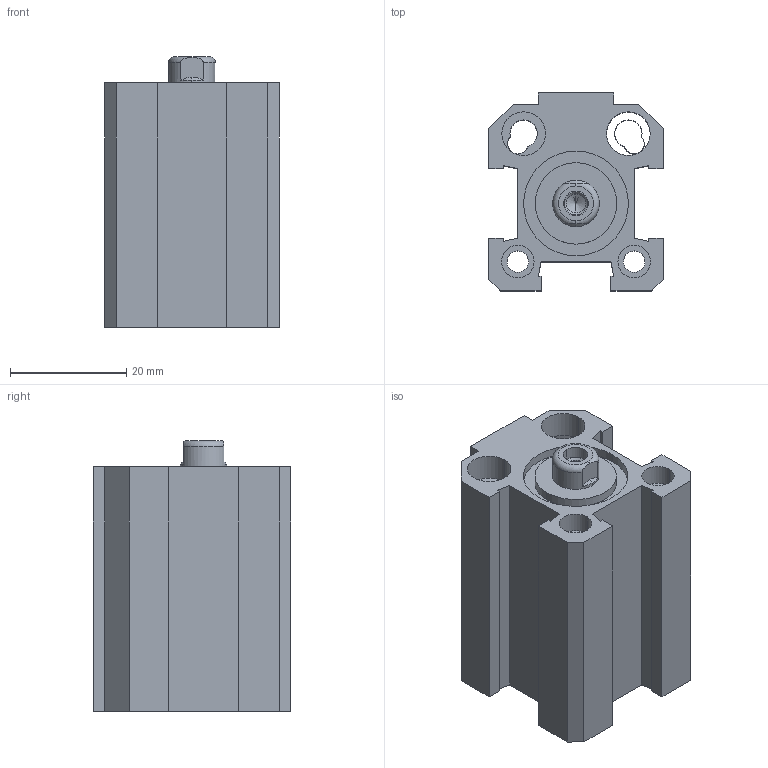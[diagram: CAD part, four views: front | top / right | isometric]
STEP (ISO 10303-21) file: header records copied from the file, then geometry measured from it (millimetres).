
FILE_DESCRIPTION (( 'STEP AP203' ), '1' );
FILE_NAME ('SHDM16.0010.STEP', '2005-10-18T12:10:33', ( 'Vesta Automation srl' ), ( 'Vesta Automation srl' ), 'SwSTEP 2.0', 'SolidWorks 2005187', '' );
FILE_SCHEMA (( 'CONFIG_CONTROL_DESIGN' ));
Length unit declared in the file: millimetre
Products named in the file (3): SHDM16.0010; BARREL-SHDM16_STROKE 0010M; PISTON ROD-SHDM16_STROKE 0010M
Assembly tree (2 placements, depth 2):
  SHDM16.0010
    BARREL-SHDM16_STROKE 0010M
    PISTON ROD-SHDM16_STROKE 0010M
Bounding box: 30 x 34 x 46.5 mm (x, y, z)
Volume: 27337.5 mm3; surface area: 15346 mm2
Topology: 2 solids, 2 shells, 377 faces, 911 edges, 554 vertices
Faces by surface type: plane 157, cone 155, cylinder 63, torus 2
Entity records: 11280 total; most frequent: CARTESIAN_POINT 1989, DIRECTION 1955, ORIENTED_EDGE 1818, EDGE_CURVE 909, AXIS2_PLACEMENT_3D 674, LINE 607, VECTOR 607, VERTEX_POINT 554
